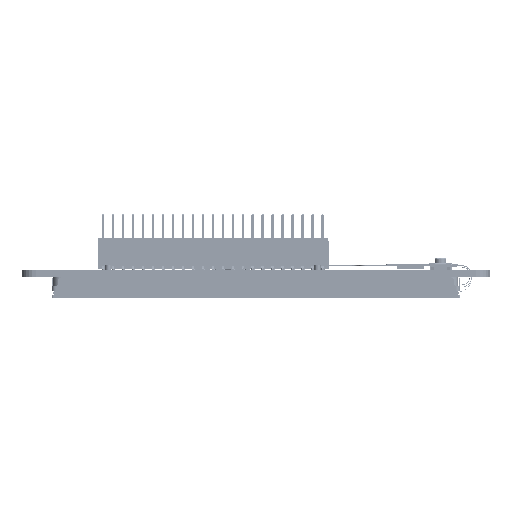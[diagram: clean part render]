
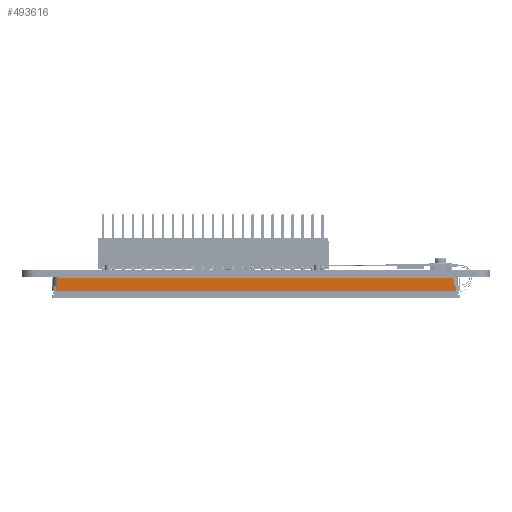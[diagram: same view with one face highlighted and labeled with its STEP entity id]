
A CAD part, left-side view. The second image highlights one B-rep face of the part: STEP entity #493616.
In plain terms, the highlighted planar face has unit normal (-1, 0, 0).
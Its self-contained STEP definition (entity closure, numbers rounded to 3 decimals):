
#141 = AXIS2_PLACEMENT_3D ( 'NONE', #511742, #293992, #78909 ) ;
#13316 = EDGE_CURVE ( 'NONE', #224195, #183863, #517995, .T. ) ;
#14006 = CARTESIAN_POINT ( 'NONE',  ( 43.723, 222.903, 245.917 ) ) ;
#17641 = LINE ( 'NONE', #275087, #160904 ) ;
#32846 = CARTESIAN_POINT ( 'NONE',  ( 43.723, 222.103, 248.817 ) ) ;
#56385 = ORIENTED_EDGE ( 'NONE', *, *, #333869, .T. ) ;
#62533 = EDGE_CURVE ( 'NONE', #410411, #181534, #91544, .T. ) ;
#76211 = DIRECTION ( 'NONE',  ( -1., 0., 0. ) ) ;
#78909 = DIRECTION ( 'NONE',  ( 0., -1., 0. ) ) ;
#82209 = DIRECTION ( 'NONE',  ( 0., 0., 1. ) ) ;
#86028 = CARTESIAN_POINT ( 'NONE',  ( 43.723, 121.403, 248.817 ) ) ;
#91544 = LINE ( 'NONE', #133982, #145904 ) ;
#95005 = CARTESIAN_POINT ( 'NONE',  ( 43.723, 121.403, 247.587 ) ) ;
#95570 = ORIENTED_EDGE ( 'NONE', *, *, #226003, .F. ) ;
#97073 = LINE ( 'NONE', #269651, #131668 ) ;
#97301 = AXIS2_PLACEMENT_3D ( 'NONE', #32846, #157413, #375261 ) ;
#97887 = CARTESIAN_POINT ( 'NONE',  ( 43.723, 222.903, 247.287 ) ) ;
#99848 = CARTESIAN_POINT ( 'NONE',  ( 43.723, 120.903, 247.287 ) ) ;
#105295 = DIRECTION ( 'NONE',  ( 0., 0., 1. ) ) ;
#113082 = DIRECTION ( 'NONE',  ( 0., 1., 0. ) ) ;
#123415 = CARTESIAN_POINT ( 'NONE',  ( 43.723, 121.103, 247.587 ) ) ;
#124918 = EDGE_CURVE ( 'NONE', #511113, #433303, #97073, .T. ) ;
#127158 = AXIS2_PLACEMENT_3D ( 'NONE', #123415, #267494, #134582 ) ;
#129457 = CARTESIAN_POINT ( 'NONE',  ( 43.723, 120.903, 245.917 ) ) ;
#131668 = VECTOR ( 'NONE', #357130, 1000. ) ;
#132590 = CIRCLE ( 'NONE', #430604, 0.3 ) ;
#133055 = CARTESIAN_POINT ( 'NONE',  ( 43.723, 222.903, 249.117 ) ) ;
#133511 = EDGE_CURVE ( 'NONE', #175977, #495683, #461483, .T. ) ;
#133982 = CARTESIAN_POINT ( 'NONE',  ( 43.723, 120.903, 249.117 ) ) ;
#134582 = DIRECTION ( 'NONE',  ( 0., 1., 0. ) ) ;
#141958 = ORIENTED_EDGE ( 'NONE', *, *, #388274, .T. ) ;
#142290 = LINE ( 'NONE', #99848, #406783 ) ;
#145904 = VECTOR ( 'NONE', #394275, 1000. ) ;
#157413 = DIRECTION ( 'NONE',  ( -1., 0., 0. ) ) ;
#160904 = VECTOR ( 'NONE', #105295, 1000. ) ;
#164109 = ORIENTED_EDGE ( 'NONE', *, *, #62533, .T. ) ;
#172657 = VERTEX_POINT ( 'NONE', #86028 ) ;
#175977 = VERTEX_POINT ( 'NONE', #177207 ) ;
#177207 = CARTESIAN_POINT ( 'NONE',  ( 43.723, 121.103, 247.287 ) ) ;
#181534 = VERTEX_POINT ( 'NONE', #518541 ) ;
#183863 = VERTEX_POINT ( 'NONE', #14006 ) ;
#192104 = CARTESIAN_POINT ( 'NONE',  ( 43.723, 120.903, 249.117 ) ) ;
#192705 = CARTESIAN_POINT ( 'NONE',  ( 43.723, 119.903, 247.287 ) ) ;
#214067 = ORIENTED_EDGE ( 'NONE', *, *, #133511, .T. ) ;
#217780 = VECTOR ( 'NONE', #305815, 1000. ) ;
#218252 = CIRCLE ( 'NONE', #141, 0.3 ) ;
#224195 = VERTEX_POINT ( 'NONE', #129457 ) ;
#226003 = EDGE_CURVE ( 'NONE', #175977, #445629, #285895, .T. ) ;
#238471 = EDGE_LOOP ( 'NONE', ( #286041, #141958, #164109, #511079, #252241, #281458, #56385, #339411, #403007, #249720, #95570, #214067 ) ) ;
#242286 = EDGE_CURVE ( 'NONE', #433303, #343892, #132590, .T. ) ;
#243245 = PLANE ( 'NONE',  #499024 ) ;
#249720 = ORIENTED_EDGE ( 'NONE', *, *, #488977, .T. ) ;
#252241 = ORIENTED_EDGE ( 'NONE', *, *, #124918, .T. ) ;
#253958 = VECTOR ( 'NONE', #446746, 1000. ) ;
#265966 = LINE ( 'NONE', #133055, #503757 ) ;
#267494 = DIRECTION ( 'NONE',  ( 1., 0., 0. ) ) ;
#269651 = CARTESIAN_POINT ( 'NONE',  ( 43.723, 222.403, 249.117 ) ) ;
#275087 = CARTESIAN_POINT ( 'NONE',  ( 43.723, 121.403, 249.117 ) ) ;
#281458 = ORIENTED_EDGE ( 'NONE', *, *, #242286, .T. ) ;
#285895 = LINE ( 'NONE', #192705, #528622 ) ;
#286041 = ORIENTED_EDGE ( 'NONE', *, *, #381563, .T. ) ;
#293992 = DIRECTION ( 'NONE',  ( -1., 0., 0. ) ) ;
#305815 = DIRECTION ( 'NONE',  ( 0., 1., 0. ) ) ;
#306519 = DIRECTION ( 'NONE',  ( 0., 1., 0. ) ) ;
#323598 = CARTESIAN_POINT ( 'NONE',  ( 43.723, 222.703, 247.587 ) ) ;
#333869 = EDGE_CURVE ( 'NONE', #343892, #527499, #142290, .T. ) ;
#339411 = ORIENTED_EDGE ( 'NONE', *, *, #380794, .F. ) ;
#343892 = VERTEX_POINT ( 'NONE', #498273 ) ;
#350523 = CIRCLE ( 'NONE', #97301, 0.3 ) ;
#357130 = DIRECTION ( 'NONE',  ( 0., 0., -1. ) ) ;
#357703 = DIRECTION ( 'NONE',  ( 1., 0., 0. ) ) ;
#363294 = DIRECTION ( 'NONE',  ( 0., -1., 0. ) ) ;
#374518 = EDGE_CURVE ( 'NONE', #181534, #511113, #350523, .T. ) ;
#375261 = DIRECTION ( 'NONE',  ( 0., 1., 0. ) ) ;
#376190 = CARTESIAN_POINT ( 'NONE',  ( 43.723, 120.903, 249.117 ) ) ;
#380794 = EDGE_CURVE ( 'NONE', #183863, #527499, #265966, .T. ) ;
#381563 = EDGE_CURVE ( 'NONE', #495683, #172657, #17641, .T. ) ;
#386945 = CARTESIAN_POINT ( 'NONE',  ( 43.723, 222.403, 247.587 ) ) ;
#388274 = EDGE_CURVE ( 'NONE', #172657, #410411, #218252, .T. ) ;
#394275 = DIRECTION ( 'NONE',  ( 0., 1., 0. ) ) ;
#403007 = ORIENTED_EDGE ( 'NONE', *, *, #13316, .F. ) ;
#406783 = VECTOR ( 'NONE', #306519, 1000. ) ;
#410411 = VERTEX_POINT ( 'NONE', #486715 ) ;
#411799 = CARTESIAN_POINT ( 'NONE',  ( 43.723, 120.903, 247.287 ) ) ;
#430604 = AXIS2_PLACEMENT_3D ( 'NONE', #323598, #357703, #363294 ) ;
#433303 = VERTEX_POINT ( 'NONE', #386945 ) ;
#445629 = VERTEX_POINT ( 'NONE', #411799 ) ;
#446746 = DIRECTION ( 'NONE',  ( 0., 0., 1. ) ) ;
#449502 = LINE ( 'NONE', #192104, #253958 ) ;
#458405 = DIRECTION ( 'NONE',  ( 0., -1., 0. ) ) ;
#461483 = CIRCLE ( 'NONE', #127158, 0.3 ) ;
#475541 = CARTESIAN_POINT ( 'NONE',  ( 43.723, 171.903, 245.917 ) ) ;
#486715 = CARTESIAN_POINT ( 'NONE',  ( 43.723, 121.703, 249.117 ) ) ;
#488977 = EDGE_CURVE ( 'NONE', #224195, #445629, #449502, .T. ) ;
#493616 = ADVANCED_FACE ( 'NONE', ( #509047 ), #243245, .T. ) ;
#495683 = VERTEX_POINT ( 'NONE', #95005 ) ;
#498273 = CARTESIAN_POINT ( 'NONE',  ( 43.723, 222.703, 247.287 ) ) ;
#499024 = AXIS2_PLACEMENT_3D ( 'NONE', #376190, #76211, #113082 ) ;
#503757 = VECTOR ( 'NONE', #82209, 1000. ) ;
#509047 = FACE_OUTER_BOUND ( 'NONE', #238471, .T. ) ;
#511079 = ORIENTED_EDGE ( 'NONE', *, *, #374518, .T. ) ;
#511113 = VERTEX_POINT ( 'NONE', #543463 ) ;
#511742 = CARTESIAN_POINT ( 'NONE',  ( 43.723, 121.703, 248.817 ) ) ;
#517995 = LINE ( 'NONE', #475541, #217780 ) ;
#518541 = CARTESIAN_POINT ( 'NONE',  ( 43.723, 222.103, 249.117 ) ) ;
#527499 = VERTEX_POINT ( 'NONE', #97887 ) ;
#528622 = VECTOR ( 'NONE', #458405, 1000. ) ;
#543463 = CARTESIAN_POINT ( 'NONE',  ( 43.723, 222.403, 248.817 ) ) ;
